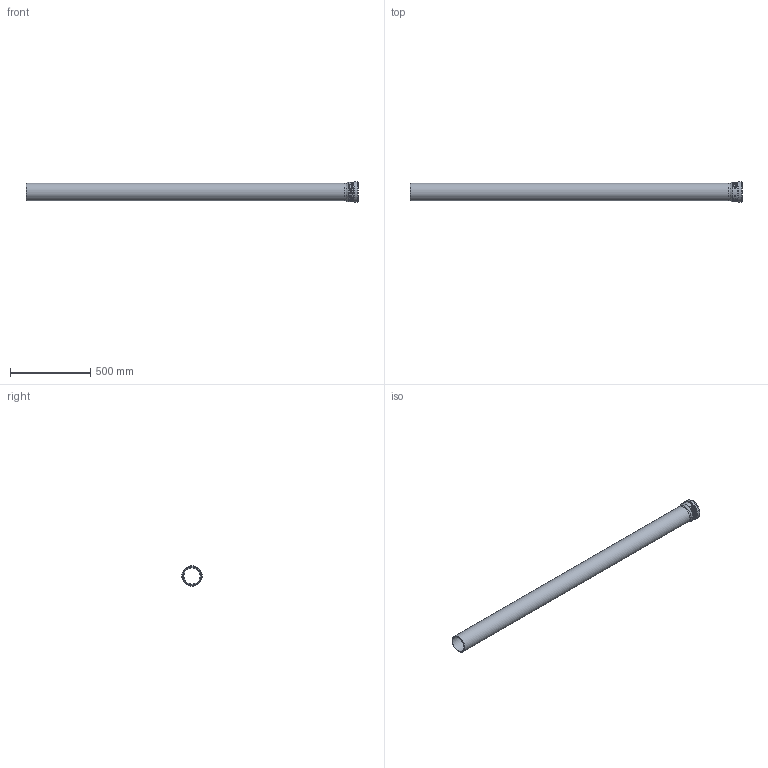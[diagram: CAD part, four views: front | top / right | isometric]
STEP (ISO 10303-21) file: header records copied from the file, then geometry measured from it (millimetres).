
FILE_DESCRIPTION(/* description */ (''),/* implementation_level */ '2;1');
FILE_NAME(/* name */ 'H:\Geberit-Teile\Export\PP_Rohr\stp\393506.stp',/* time_stamp */ '2017-02-13T16:08:47+01:00',/* author */ ('seihe2'),/* organization */ (''),/* preprocessor_version */ 'ST-DEVELOPER v15.2',/* originating_system */ 'Autodesk Inventor 2014',/* authorisation */ '');
FILE_SCHEMA (('AUTOMOTIVE_DESIGN { 1 0 10303 214 3 1 1 }'));
Length unit declared in the file: millimetre
Products named in the file (1): 393506
Bounding box: 2068.1 x 128.7 x 128.7 mm (x, y, z)
Volume: 3123541.9 mm3; surface area: 1400885.1 mm2
Topology: 2 solids, 2 shells, 38 faces, 81 edges, 56 vertices
Faces by surface type: torus 17, cylinder 10, plane 8, cone 2, bspline 1
Full cylindrical faces by diameter (mm): 101.2 x2, 110.2 x2, 111.1 x1, 113.7 x1, 119.5 x1, 121.3 x1, 122.1 x1, 128.7 x1
Entity records: 2113 total; most frequent: CARTESIAN_POINT 1334, DIRECTION 130, ORIENTED_EDGE 124, EDGE_LOOP 69, AXIS2_PLACEMENT_3D 65, EDGE_CURVE 62, VERTEX_POINT 55, STYLED_ITEM 40
